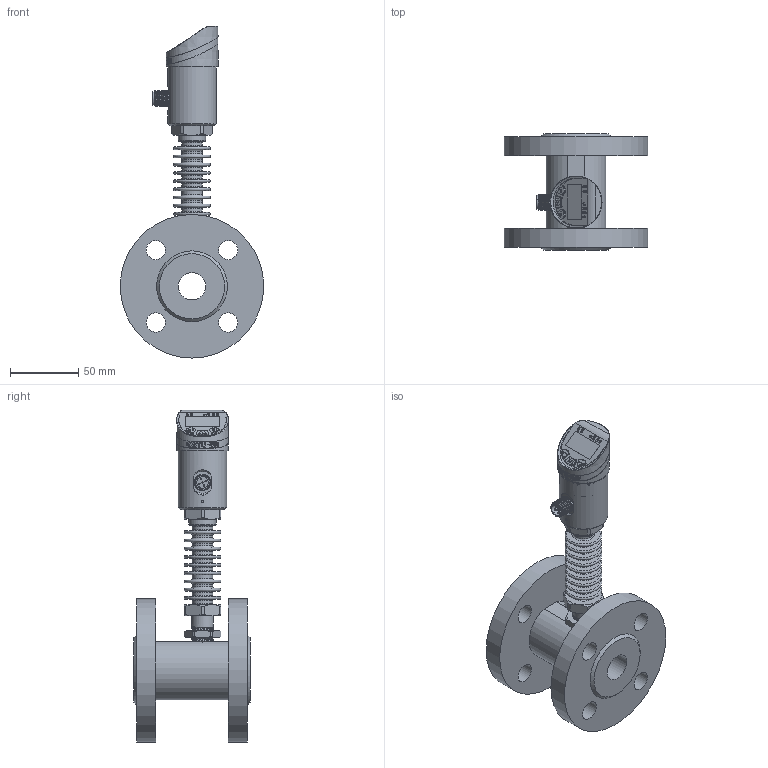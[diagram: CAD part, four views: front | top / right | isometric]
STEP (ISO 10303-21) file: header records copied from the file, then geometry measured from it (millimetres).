
FILE_DESCRIPTION( (''), '2;1');
FILE_NAME( 'QTKE_DN20_flange_high-temp.step', '2024-10-14T15:42:36+08:00', (''), (''), '', '', '');
FILE_SCHEMA (('AUTOMOTIVE_DESIGN { 1 0 10303 214 3 1 1 1 }'));
Length unit declared in the file: millimetre
Products named in the file (1): QTKE DN20_flange_high-temp
Bounding box: 105 x 85 x 243 mm (x, y, z)
Volume: 328193.3 mm3; surface area: 100018.9 mm2
Topology: 5 solids, 5 shells, 993 faces, 2545 edges, 1653 vertices
Faces by surface type: plane 405, cylinder 177, extrusion 160, cone 110, bspline 60, torus 60, sphere 21
Full cylindrical faces by diameter (mm): 1.689 x1, 2 x1, 2.7 x6, 3.5 x5, 12 x1, 13 x1, 14 x8, 15 x10, 15.9 x1, 16.5 x1, 20 x2, 23 x3, 26 x5, 31.7 x1, 32 x1, 34 x1, 34.2 x1, 35.5 x2, 105 x2
Entity records: 44277 total; most frequent: CARTESIAN_POINT 17398, ORIENTED_EDGE 4698, DIRECTION 4107, EDGE_CURVE 2349, VERTEX_POINT 1597, AXIS2_PLACEMENT_3D 1469, EDGE_LOOP 1250, VECTOR 1169
